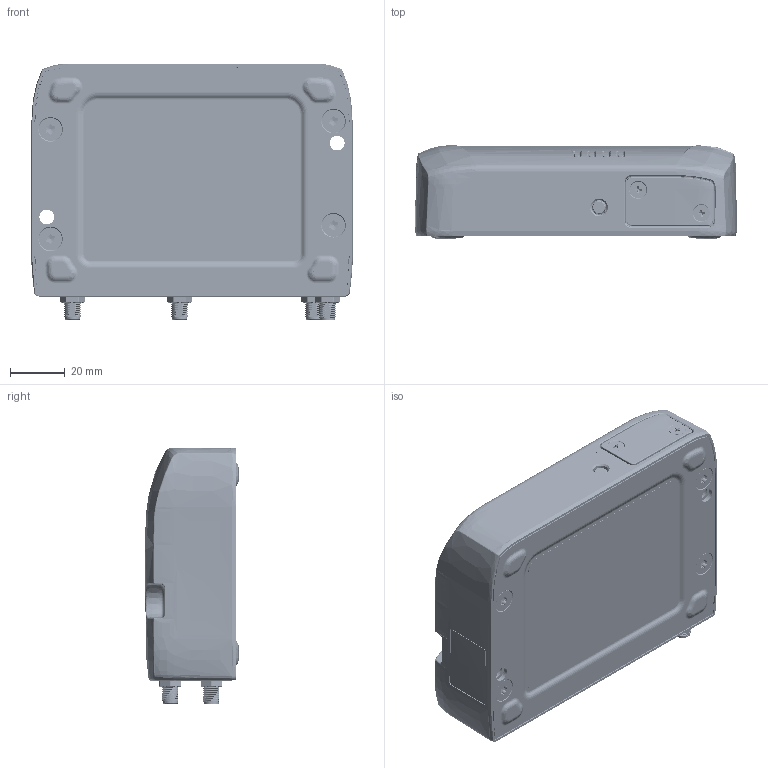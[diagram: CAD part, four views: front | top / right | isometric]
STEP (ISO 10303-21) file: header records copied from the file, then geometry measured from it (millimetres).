
FILE_DESCRIPTION((''),'2;1');
FILE_NAME('BRONCO_ASSY_MASTER_ASM','2026-03-10T12:04:51',('jle'),('Sierra Wireless'),'CREO PARAMETRIC BY PTC INC, 2022124','CREO PARAMETRIC BY PTC INC, 2022124','');
FILE_SCHEMA(('CONFIG_CONTROL_DESIGN','GEOMETRIC_VALIDATION_PROPERTIES_MIM'));
Products named in the file (23): 5308220; 5308221; RIVIAN-BRONCO_PCB_DV4_JUL162025; 12401977; 430450406_1_MAR2024; TOYOTA-RJ-45; G85D1171X1XHHR-4FF; BRONCO_PCA_MASTER_ASM; SMA_MAR212022; 5307735; 5308241; 5307286; 5308224; 5308225; 5307485; 5307485_PSA; 5307485_ASM; RIVIAN_LABEL; RIVIAN_LABEL_SIDE; 5308299; SMA-CABLE_AUG202025; RPSMA-CABLE_AUG202025; BRONCO_ASSY_MASTER_ASM
Assembly tree (32 placements, depth 3):
  BRONCO_ASSY_MASTER_ASM
    5308220
    5308221
    BRONCO_PCA_MASTER_ASM
      RIVIAN-BRONCO_PCB_DV4_JUL162025
      12401977
      430450406_1_MAR2024
      TOYOTA-RJ-45
      G85D1171X1XHHR-4FF  x2
    SMA_MAR212022
    5307735  x4
    5308241
    5307286  x2
    5308224
    5308225
    5307485_ASM  x2
      5307485
      5307485_PSA
    RIVIAN_LABEL
    RIVIAN_LABEL_SIDE
    5308299  x4
    SMA-CABLE_AUG202025  x2
    RPSMA-CABLE_AUG202025
Bounding box: 117.38 x 34.01 x 93.71 mm (x, y, z)
Volume: 105242.8 mm3; surface area: 106362.7 mm2
Topology: 32 solids, 58 shells, 14219 faces, 38210 edges, 24231 vertices
Faces by surface type: plane 7542, cylinder 3042, bspline 1840, extrusion 628, cone 564, torus 316, sphere 244, revolution 43
Entity records: 657055 total; most frequent: CARTESIAN_POINT 279690, ORIENTED_EDGE 65836, DIRECTION 53560, EDGE_CURVE 32918, VECTOR 21702, PRESENTATION_STYLE_ASSIGNMENT 21329, LINE 21074, STYLED_ITEM 20996
